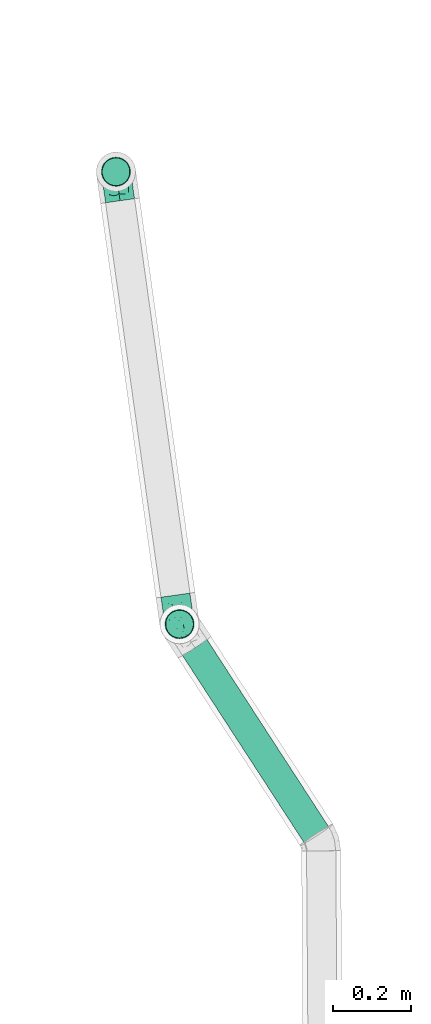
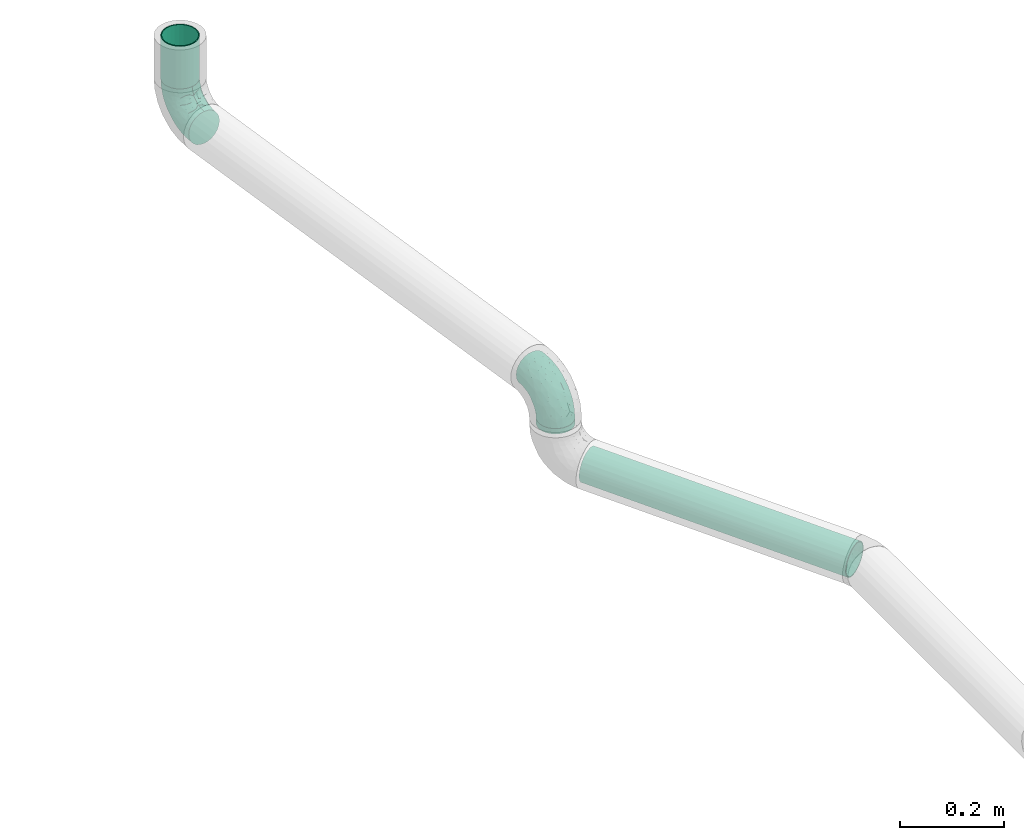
# One storey, part 76 of 156: 3 flow segments, 2 flow fittings.
"""IFC2X3 building model written with IfcOpenShell, lengths in millimetres."""

from ifc_helpers import new_model, entity, si_unit, converted_unit, derived_unit, direction, frame, origin_with_axes, origin_2d_with_axis, place, context, subcontext, project, spatial, hollow_circle, extrude, open_shell, surface_model, source, transform, mapped, type_object, element, save


model = new_model("IFC2X3")

# Units and contexts
model_context = context("Model", 3, precision=0.01, world=frame((0.0, 4.29681676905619e-09, 0.0)), true_north=direction((4.01073788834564e-13, 1.0)))
plan_context = context("Plan", 3, precision=0.01, world=frame((0.0, 4.29681676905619e-09, 0.0)), true_north=direction((4.01073788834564e-13, 1.0)))
body_context = subcontext(model_context, "Body", "Model", "MODEL_VIEW")
ifc_project = project(units=[converted_unit("PLANEANGLEUNIT", "DEGREE", entity("IfcPositiveLengthMeasure", 0.0174532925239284), si_unit("PLANEANGLEUNIT", "RADIAN"), dimensions=[0, 0, 0, 0, 0, 0, 0]), si_unit("AREAUNIT", "SQUARE_METRE"), si_unit("LENGTHUNIT", "METRE", prefix="MILLI"), si_unit("MASSUNIT", "GRAM", prefix="KILO"), si_unit("POWERUNIT", "WATT"), si_unit("PRESSUREUNIT", "PASCAL", prefix="KILO"), si_unit("FORCEUNIT", "NEWTON", prefix="KILO"), si_unit("ELECTRICVOLTAGEUNIT", "VOLT"), si_unit("ELECTRICCURRENTUNIT", "AMPERE"), si_unit("THERMODYNAMICTEMPERATUREUNIT", "DEGREE_CELSIUS"), si_unit("TIMEUNIT", "SECOND"), si_unit("VOLUMEUNIT", "CUBIC_METRE"), derived_unit("LINEARVELOCITYUNIT", [(si_unit("LENGTHUNIT", "METRE"), 1), (si_unit("TIMEUNIT", "SECOND"), -1)]), derived_unit("VOLUMETRICFLOWRATEUNIT", [(si_unit("VOLUMEUNIT", "CUBIC_METRE"), 1), (si_unit("TIMEUNIT", "SECOND"), -1)]), derived_unit("THERMALTRANSMITTANCEUNIT", [(si_unit("POWERUNIT", "WATT"), 1), (si_unit("THERMODYNAMICTEMPERATUREUNIT", "KELVIN"), -1), (si_unit("AREAUNIT", "SQUARE_METRE"), -1)]), derived_unit("SOUNDPRESSUREUNIT", [(si_unit("PRESSUREUNIT", "PASCAL"), 1)])], contexts=[model_context, plan_context])

# Site, building, storey
site_placement = place(None, frame((0.0, -4.29681676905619e-09, 0.0), z_axis=(0.0, 0.0, 1.0), x_axis=(1.0, 0.0, 0.0)))
site = spatial("IfcSite", under=ifc_project, at=site_placement, CompositionType="ELEMENT")
building_placement = place(site_placement, frame((0.0, 4.29681676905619e-09, 0.0), z_axis=(0.0, 0.0, 1.0), x_axis=(1.0, 0.0, 0.0)))
building = spatial("IfcBuilding", under=site, at=building_placement, Name="mc-building", CompositionType="ELEMENT")
storey_placement = place(building_placement, frame((0.0, 0.0, 205200.0), z_axis=(0.0, 0.0, 1.0), x_axis=(1.0, 0.0, 0.0)))
storey = spatial("IfcBuildingStorey", under=building, at=storey_placement, Name="Nivå D + 1,2 m", CompositionType="ELEMENT", Elevation=205200.0)

# Flow fittings
pipe_fitting_type = type_object("IfcPipeFittingType", Name="magi_pipe_elbow_short_001", PredefinedType="BEND")
shared_shape_1 = source(origin_with_axes(), body_context, "Body", "SurfaceModel", [
    surface_model("IfcShellBasedSurfaceModel", [(-75.0, 18.75, -32.47595), (-75.0, 9.70571, -36.22222), (-75.0, 0.0, -37.5), (-75.0, 26.5165, -26.5165), (-75.0, 36.22222, -9.70571), (-75.0, 32.47595, -18.75), (-75.0, -26.5165, -26.5165), (-75.0, -32.47595, -18.75), (-75.0, -18.75, -32.47595), (-75.0, -9.70571, -36.22222), (-75.0, -36.22222, -9.70571), (-75.0, -37.5, 0.0), (-75.0, -36.22222, 9.70571), (-75.0, 32.47595, 18.75), (-75.0, 36.22222, 9.70571), (-75.0, 26.5165, 26.5165), (-75.0, 9.70571, 36.22222), (-75.0, 18.75, 32.47595), (-75.0, -32.47595, 18.75), (-75.0, -26.5165, 26.5165), (-75.0, -18.75, 32.47595), (-75.0, -9.70571, 36.22222), (-75.0, 0.0, 37.5), (-75.0, 37.5, 0.0), (0.0, 75.0, -37.5), (-9.70571, 75.0, -36.22222), (-18.75, 75.0, -32.47595), (-26.5165, 75.0, -26.5165), (-37.5, 75.0, 0.0), (-32.47595, 75.0, -18.75), (26.5165, 75.0, -26.5165), (32.47595, 75.0, -18.75), (9.70571, 75.0, -36.22222), (18.75, 75.0, -32.47595), (37.5, 75.0, 0.0), (36.22222, 75.0, -9.70571), (36.22222, 75.0, 9.70571), (-36.22222, 75.0, -9.70571), (-36.22222, 75.0, 9.70571), (-26.5165, 75.0, 26.5165), (-32.47595, 75.0, 18.75), (-18.75, 75.0, 32.47595), (-9.70571, 75.0, 36.22222), (26.5165, 75.0, 26.5165), (32.47595, 75.0, 18.75), (18.75, 75.0, 32.47595), (0.0, 75.0, 37.5), (9.70571, 75.0, 36.22222), (-50.66195, -32.88873, 11.78572), (-54.99922, -29.13125, 21.04995), (-40.23559, -31.99386, 0.0), (-56.55691, -34.5789, 0.0), (-9.60325, -12.95098, 14.46051), (-2.61009, -10.01741, 7.88638), (2.16617, -2.16616, 15.53807), (-57.288, -4.96773, 36.85866), (-52.51217, 5.74824, 37.43608), (12.81037, 9.15765, 14.08651), (22.89928, 30.51548, 18.6525), (8.7824, 13.60594, 23.93416), (-37.33476, -0.33653, 36.347), (-54.85586, -14.14869, 33.72555), (-29.12471, -8.85823, 31.34411), (-48.10461, -21.423, 27.85772), (-33.59975, -28.74209, 7.71494), (-24.55487, -24.00414, 0.0), (-13.60594, -8.7824, 23.93416), (-6.69857, 6.69857, 30.65943), (-36.65649, 59.85204, 16.29881), (-31.32632, 58.38324, 24.63625), (-13.99807, 64.68502, 35.12545), (-5.13953, 56.09471, 37.40789), (-57.80652, 14.70733, 35.42412), (-9.78855, 25.11652, 36.82116), (-18.63299, 6.87945, 35.01744), (-3.83097, 20.26022, 34.46205), (-64.87994, 22.70936, 30.5559), (-13.033, 36.87746, 37.43272), (-27.77679, 27.77679, 36.58883), (-22.32941, 16.38719, 37.30683), (-59.28624, 39.94303, 8.24496), (-59.87067, 36.65042, 16.29631), (-46.56121, 46.56121, 14.01781), (-58.62128, 31.26084, 24.61005), (21.423, 48.10461, 27.85772), (-38.8913, 49.70952, 21.22461), (14.14869, 54.85586, 33.72555), (29.13125, 54.99922, 21.04995), (32.88873, 50.66195, 11.78572), (-8.87416, -16.01441, 0.0), (-18.2094, -20.62738, 9.716), (4.96773, 57.288, 36.85866), (-41.2078, 16.06301, 36.82891), (-36.79737, 9.18911, 37.484), (24.00414, 24.55487, 0.0), (28.74209, 33.59975, 7.71494), (20.62738, 18.2094, 9.716), (34.5789, 56.5569, 0.0), (-39.86686, 25.44473, 34.6853), (-30.51548, -22.89929, 18.6525), (-27.18733, 48.46895, 31.51768), (-22.90983, 62.88141, 30.71147), (-39.47351, 60.49606, 8.04494), (-46.99814, 49.18552, 6.59975), (17.2765, 30.20783, 25.41576), (8.85823, 29.12471, 31.34411), (-42.52405, 56.25, 0.0), (-34.71543, 39.60057, 30.81378), (-51.63921, 25.45565, 31.57887), (-0.57315, 0.57314, 22.15528), (-21.39907, 38.81887, 36.04898), (-29.87575, 36.30561, 34.12075), (-16.21806, 50.81342, 35.71351), (-39.52887, 41.87958, 26.56295), (-48.16312, 40.29427, 20.91087), (0.33653, 37.33476, 36.347), (-30.0679, -16.43719, 26.14736), (10.22617, 2.72351, 7.47716), (31.99386, 40.23559, 0.0), (16.01441, 8.87416, 0.0), (-56.25, 42.52405, 0.0), (3.57013, -3.57013, 0.0), (-55.29924, 32.29556, -24.97819), (-59.83636, 36.66159, -16.30091), (-30.63566, -9.46389, -31.46168), (-32.56288, -0.46777, -35.66689), (-15.06702, -0.62752, -30.72736), (-59.36538, 4.74163, -37.37795), (-54.70677, -33.57101, -12.22532), (-47.11778, -27.80921, -20.31132), (-35.78225, -28.12088, -12.58113), (-54.55876, 15.30781, -35.56016), (-41.31209, 8.8649, -37.4919), (-32.29557, 55.29924, -24.97819), (-60.70982, 39.34858, -8.20557), (-23.53711, 58.87183, -31.02168), (-15.30781, 54.55876, -35.56016), (-47.71661, 47.71661, -8.95342), (22.40392, 54.25272, -28.31307), (12.94164, 47.49005, -33.35163), (14.78364, 63.33368, -34.12928), (-7.30605, -13.19114, -9.87585), (-7.41233, -9.72412, -17.08835), (4.03435, -3.18292, -9.89479), (-21.88198, 20.2773, -37.47871), (-35.54999, 22.18897, -36.38385), (-58.87183, 23.53711, -31.02168), (-63.13479, -29.8521, -21.78761), (-36.48245, 42.59931, -28.24512), (-34.65769, 34.65768, -32.92632), (-45.83467, 31.6775, -29.79181), (3.27021, -0.68924, -16.07244), (-54.25272, -22.40392, -28.31307), (27.80921, 47.11778, -20.31132), (33.57101, 54.70677, -12.22532), (28.12088, 35.78224, -12.58113), (-63.33368, -14.78364, -34.12928), (4.72829, 55.2495, -36.81435), (-23.70708, -18.25272, -20.4572), (-27.99946, -15.29719, -26.23299), (-13.59403, -9.26621, -23.44624), (-40.92572, -17.1227, -29.44432), (-47.49005, -12.94164, -33.35163), (-55.2495, -4.72829, -36.81435), (-28.10029, 46.13387, -31.76622), (-39.34858, 60.70982, -8.20557), (-4.74163, 59.36537, -37.37795), (-13.2384, 13.2384, -35.41008), (0.46777, 32.56288, -35.66689), (1.57868, 17.61531, -31.27328), (-36.6616, 59.83635, -16.30091), (-45.03866, 45.03866, -18.48368), (29.8521, 63.13479, -21.78761), (21.73246, 30.12864, -20.13951), (12.08848, 14.21656, -20.79992), (15.29719, 27.99946, -26.23299), (7.75053, 32.01418, -32.75993), (-8.8649, 41.31209, -37.4919), (-45.59181, 24.13361, -33.799), (-22.36035, 36.49252, -36.20246), (-0.35549, 0.35549, -21.72869), (-17.3698, -20.96637, -6.45086), (19.22892, 18.63119, -13.96617), (20.96637, 17.3698, -6.45086), (4.41782, 11.43015, -26.30466), (-18.63119, -19.22892, -13.96617)], [open_shell([[[0, 1, 2]], [[3, 0, 2]], [[4, 5, 3]], [[6, 3, 2]], [[4, 3, 7]], [[8, 6, 9]], [[6, 2, 9]], [[10, 11, 7]], [[3, 6, 7]], [[7, 11, 12]], [[12, 4, 7]], [[13, 14, 15]], [[16, 17, 15]], [[18, 19, 12]], [[20, 12, 19]], [[21, 22, 20]], [[12, 20, 22]], [[4, 12, 23]], [[24, 25, 26]], [[24, 26, 27]], [[28, 27, 29]], [[24, 27, 30]], [[28, 31, 27]], [[32, 30, 33]], [[32, 24, 30]], [[31, 34, 35]], [[31, 30, 27]], [[36, 34, 31]], [[37, 28, 29]], [[38, 36, 28]], [[39, 38, 40]], [[39, 41, 42]], [[38, 39, 36]], [[42, 36, 39]], [[36, 43, 44]], [[43, 36, 45]], [[45, 46, 47]], [[46, 45, 36]], [[36, 42, 46]], [[28, 36, 31]], [[48, 49, 18]], [[50, 48, 51]], [[52, 53, 54]], [[12, 48, 18]], [[12, 51, 48]], [[22, 55, 56]], [[18, 49, 19]], [[57, 58, 59]], [[60, 61, 62]], [[63, 20, 19]], [[63, 61, 20]], [[64, 50, 65]], [[62, 66, 67]], [[40, 68, 69]], [[42, 70, 71]], [[16, 72, 17]], [[73, 74, 75]], [[17, 76, 15]], [[21, 55, 22]], [[77, 78, 79]], [[80, 81, 82]], [[13, 83, 81]], [[84, 43, 45]], [[23, 14, 80]], [[14, 13, 81]], [[68, 85, 69]], [[83, 13, 15]], [[22, 56, 16]], [[45, 86, 84]], [[15, 76, 83]], [[87, 58, 88]], [[40, 38, 68]], [[89, 90, 65]], [[46, 91, 47]], [[65, 90, 64]], [[46, 42, 71]], [[92, 93, 79]], [[88, 36, 44]], [[44, 43, 87]], [[87, 88, 44]], [[94, 95, 96]], [[88, 97, 36]], [[98, 72, 92]], [[49, 99, 63]], [[69, 100, 101]], [[82, 102, 103]], [[104, 105, 59]], [[106, 102, 28]], [[98, 107, 108]], [[102, 82, 68]], [[86, 45, 47]], [[69, 39, 40]], [[109, 54, 57]], [[110, 100, 111]], [[20, 61, 21]], [[101, 41, 39]], [[70, 42, 41]], [[112, 77, 71]], [[84, 86, 105]], [[96, 95, 58]], [[100, 69, 113]], [[72, 16, 56]], [[108, 113, 83]], [[81, 114, 82]], [[112, 110, 77]], [[91, 71, 115]], [[62, 61, 63]], [[55, 61, 60]], [[116, 99, 66]], [[74, 62, 67]], [[91, 86, 47]], [[105, 86, 115]], [[75, 105, 115]], [[109, 67, 66]], [[59, 105, 67]], [[48, 64, 99]], [[99, 49, 48]], [[63, 19, 49]], [[43, 84, 87]], [[58, 87, 84]], [[92, 72, 56]], [[76, 72, 108]], [[102, 68, 38]], [[82, 114, 85]], [[98, 111, 107]], [[112, 70, 101]], [[114, 83, 113]], [[82, 103, 80]], [[92, 79, 78]], [[115, 71, 77]], [[74, 79, 60]], [[77, 79, 73]], [[71, 91, 46]], [[86, 91, 115]], [[61, 55, 21]], [[56, 55, 60]], [[57, 54, 117]], [[104, 59, 58]], [[116, 66, 62]], [[52, 99, 90]], [[12, 11, 51]], [[97, 88, 118]], [[97, 34, 36]], [[53, 90, 89]], [[90, 53, 52]], [[94, 96, 119]], [[88, 95, 118]], [[117, 54, 53]], [[92, 56, 93]], [[98, 92, 78]], [[111, 98, 78]], [[72, 98, 108]], [[110, 111, 78]], [[107, 111, 100]], [[28, 102, 38]], [[102, 106, 103]], [[106, 120, 103]], [[103, 120, 80]], [[23, 80, 120]], [[14, 81, 80]], [[56, 60, 93]], [[60, 79, 93]], [[117, 121, 119]], [[121, 117, 53]], [[53, 89, 121]], [[119, 96, 117]], [[117, 96, 57]], [[77, 110, 78]], [[100, 110, 112]], [[83, 114, 81]], [[85, 114, 113]], [[69, 85, 113]], [[82, 85, 68]], [[109, 52, 54]], [[99, 52, 66]], [[69, 101, 39]], [[112, 101, 100]], [[100, 113, 107]], [[108, 107, 113]], [[62, 74, 60]], [[75, 74, 67]], [[105, 75, 67]], [[73, 75, 115]], [[77, 73, 115]], [[74, 73, 79]], [[99, 64, 90]], [[50, 64, 48]], [[118, 95, 94]], [[58, 95, 88]], [[58, 57, 96]], [[109, 57, 59]], [[72, 76, 17]], [[83, 76, 108]], [[101, 70, 41]], [[71, 70, 112]], [[58, 84, 104]], [[105, 104, 84]], [[67, 109, 59]], [[52, 109, 66]], [[62, 63, 116]], [[99, 116, 63]], [[122, 5, 123]], [[124, 125, 126]], [[2, 1, 127]], [[128, 129, 130]], [[127, 131, 132]], [[29, 27, 133]], [[120, 134, 23]], [[135, 26, 136]], [[123, 134, 137]], [[138, 139, 140]], [[122, 3, 5]], [[141, 142, 143]], [[144, 132, 145]], [[131, 0, 146]], [[128, 7, 147]], [[148, 149, 150]], [[128, 51, 10]], [[142, 151, 143]], [[152, 6, 8]], [[153, 154, 155]], [[156, 152, 8]], [[32, 157, 24]], [[158, 159, 160]], [[147, 7, 6]], [[129, 152, 161]], [[156, 8, 9]], [[162, 163, 125]], [[154, 31, 35]], [[120, 106, 137]], [[149, 148, 164]], [[28, 37, 165]], [[163, 9, 2]], [[5, 4, 123]], [[25, 166, 136]], [[167, 168, 169]], [[170, 133, 171]], [[25, 24, 166]], [[33, 30, 138]], [[157, 32, 140]], [[37, 29, 170]], [[30, 31, 172]], [[26, 135, 27]], [[132, 131, 145]], [[32, 33, 140]], [[173, 174, 175]], [[169, 168, 176]], [[25, 136, 26]], [[175, 138, 173]], [[168, 177, 157]], [[163, 162, 156]], [[153, 172, 154]], [[7, 128, 10]], [[154, 97, 118]], [[131, 178, 145]], [[0, 3, 146]], [[175, 139, 138]], [[155, 118, 94]], [[131, 1, 0]], [[146, 178, 131]], [[170, 137, 165]], [[149, 179, 145]], [[171, 133, 148]], [[160, 180, 142]], [[65, 181, 89]], [[170, 165, 37]], [[137, 171, 123]], [[172, 138, 30]], [[138, 153, 173]], [[168, 157, 139]], [[166, 157, 177]], [[176, 175, 169]], [[168, 167, 144]], [[154, 35, 97]], [[155, 182, 173]], [[162, 124, 161]], [[147, 152, 129]], [[127, 163, 2]], [[132, 144, 125]], [[132, 125, 163]], [[125, 167, 126]], [[129, 158, 130]], [[35, 34, 97]], [[143, 182, 183]], [[169, 126, 167]], [[3, 122, 146]], [[178, 150, 149]], [[136, 179, 164]], [[133, 27, 135]], [[123, 4, 134]], [[122, 123, 171]], [[133, 170, 29]], [[137, 170, 171]], [[184, 175, 174]], [[180, 160, 126]], [[126, 169, 184]], [[126, 159, 124]], [[51, 128, 50]], [[51, 11, 10]], [[131, 127, 1]], [[163, 127, 132]], [[157, 166, 24]], [[136, 166, 177]], [[164, 179, 149]], [[144, 167, 125]], [[179, 144, 145]], [[168, 144, 177]], [[136, 177, 179]], [[144, 179, 177]], [[141, 121, 89]], [[89, 181, 141]], [[154, 118, 155]], [[183, 155, 94]], [[143, 183, 119]], [[119, 183, 94]], [[155, 183, 182]], [[181, 130, 185]], [[50, 128, 130]], [[130, 181, 65]], [[50, 130, 65]], [[141, 181, 185]], [[142, 141, 185]], [[143, 121, 141]], [[158, 160, 142]], [[142, 180, 151]], [[158, 142, 185]], [[126, 160, 159]], [[130, 158, 185]], [[129, 159, 158]], [[23, 134, 4]], [[120, 137, 134]], [[137, 106, 165]], [[28, 165, 106]], [[174, 151, 180]], [[182, 143, 151]], [[150, 146, 122]], [[149, 145, 178]], [[146, 150, 178]], [[122, 171, 148]], [[148, 150, 122]], [[164, 133, 135]], [[133, 164, 148]], [[164, 135, 136]], [[138, 140, 33]], [[157, 140, 139]], [[154, 172, 31]], [[138, 172, 153]], [[163, 156, 9]], [[152, 156, 162]], [[152, 147, 6]], [[128, 147, 129]], [[155, 173, 153]], [[174, 173, 182]], [[151, 174, 182]], [[174, 180, 184]], [[126, 184, 180]], [[175, 184, 169]], [[168, 139, 176]], [[175, 176, 139]], [[161, 124, 159]], [[125, 124, 162]], [[129, 161, 159]], [[162, 161, 152]], [[143, 119, 121]], [[14, 23, 15]], [[23, 16, 15]], [[22, 16, 23]], [[22, 23, 12]]])]),
])
for number, where, z_axis, x_axis, name in (
    (1, (341228.4561, 464934.15885, 4382.15203999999), (-0.990268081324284, -0.139173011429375, 0.0), (0.0, 0.0, 1.0), "magi_pipe_elbow_short_001"),
    (2, (341065.49318, 466093.7003, 4382.15203999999), (0.990268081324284, 0.139173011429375, 0.0), (-0.139173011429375, 0.990268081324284, 0.0), "magi_pipe_elbow_short_001"),
):
    element("IfcFlowFitting", number, at=place(storey_placement, frame(where, z_axis=z_axis, x_axis=x_axis)), inside=storey, type_object=pipe_fitting_type, Name=name, context=body_context, shape_type="MappedRepresentation", body=[
        mapped(shared_shape_1, transform((0.0, 0.0, 0.0), scale=1.0)),
    ])

# Flow segments
pipe_segment_type = type_object("IfcPipeSegmentType", Name="MA", PredefinedType="RIGIDSEGMENT")
shared_shape_2 = source(origin_with_axes(), body_context, "Body", "SweptSolid", [
    extrude(hollow_circle(Radius=37.5, WallThickness=2.0, at=origin_2d_with_axis()), frame((0.0, 0.0, 0.0), z_axis=(1.0, 0.0, 0.0), x_axis=(0.0, 1.0, 0.0)), (0.0, 0.0, 1.0), 100.0),
])
flow_segment_1_placement = place(storey_placement, frame((341065.49318, 466093.7003, 4457.15203999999), z_axis=(0.139173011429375, -0.990268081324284, 0.0), x_axis=(0.0, 0.0, 1.0)))
element("IfcFlowSegment", 3, at=flow_segment_1_placement, inside=storey, type_object=pipe_segment_type, Name="MA", context=body_context, shape_type="MappedRepresentation", body=[
    mapped(shared_shape_2, transform((0.0, 0.0, 0.0), scale=1.0)),
])
shared_shape_3 = source(origin_with_axes(), body_context, "Body", "SweptSolid", [
    extrude(hollow_circle(Radius=37.5, WallThickness=2.0, at=origin_2d_with_axis()), frame((0.0, 0.0, 0.0), z_axis=(1.0, 0.0, 0.0), x_axis=(0.0, 1.0, 0.0)), (0.0, 0.0, 1.0), 575.7),
])
flow_segment_2_placement = place(storey_placement, frame((341579.31471, 464393.95725, 4179.54822), z_axis=(-0.832218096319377, -0.54766000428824, 0.0864960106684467), x_axis=(-0.543311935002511, 0.836627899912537, 0.0697559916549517)))
element("IfcFlowSegment", 4, at=flow_segment_2_placement, inside=storey, type_object=pipe_segment_type, Name="MA", context=body_context, shape_type="MappedRepresentation", body=[
    mapped(shared_shape_3, transform((0.0, 0.0, 0.0), scale=1.0)),
])
shared_shape_4 = source(origin_with_axes(), body_context, "Body", "SweptSolid", [
    extrude(hollow_circle(Radius=37.5, WallThickness=2.0, at=origin_2d_with_axis()), frame((0.0, 0.0, 0.0), z_axis=(1.0, 0.0, 0.0), x_axis=(0.0, 1.0, 0.0)), (0.0, 0.0, 1.0), 12.6),
])
flow_segment_3_placement = place(storey_placement, frame((341228.50699, 464934.15376, 4294.52744999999), z_axis=(0.544638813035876, -0.838670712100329, 0.0), x_axis=(0.0, 0.0, 1.0)))
element("IfcFlowSegment", 5, at=flow_segment_3_placement, inside=storey, type_object=pipe_segment_type, Name="MA", context=body_context, shape_type="MappedRepresentation", body=[
    mapped(shared_shape_4, transform((0.0, 0.0, 0.0), scale=1.0)),
])

save(model, "model.ifc")
